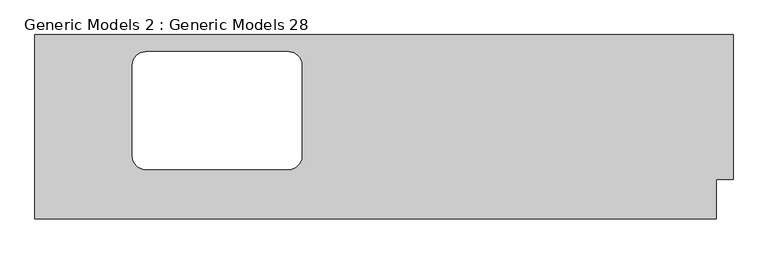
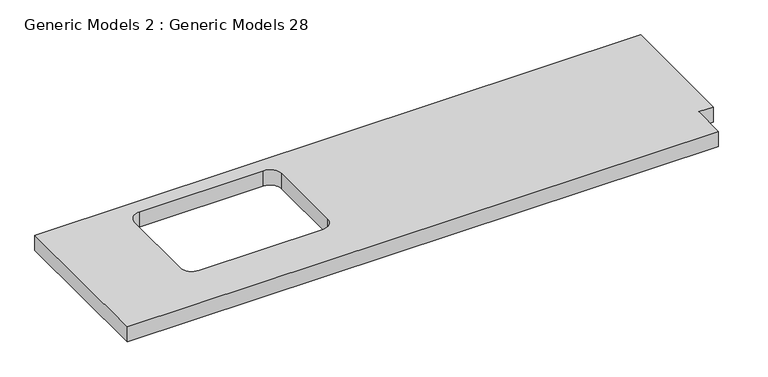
"""IFC4 building model written with IfcOpenShell, lengths in millimetres: proxy geometry, Generic Models 2 : Generic Models 28."""

from ifc_helpers import new_model, si_unit, point, frame, frame_2d, origin, place, context, project, spatial, polyline, circle_curve, trimmed, segment, composite_curve, outline, extrude, source, transform, mapped, element, save


def generic_models_2_generic_models_28_9f722f75(model_context):
    return source(origin(), model_context, "Body", "SweptSolid", [
        extrude(outline(polyline([(-21877.2739616, -7814.5871375), (-19227.2739616, -7814.5871375), (-19227.2739616, -8364.5871375), (-19291.4687178, -8364.5871375), (-19291.4687178, -8514.5871375), (-21877.2739616, -8514.5871375), (-21877.2739616, -7814.5871375)]), holes=[composite_curve([segment(polyline([(-20863.9048731, -8275.9470274), (-20863.9048731, -7929.9470274)]), True, "CONTINUOUS"), segment(trimmed(circle_curve(frame_2d((-20914.7048731, -7929.9470274)), 50.8), [point((-20863.9048731, -7929.9470274))], [point((-20914.7048731, -7879.1470274))], True, "CARTESIAN"), True, "CONTINUOUS"), segment(polyline([(-20914.7048731, -7879.1470274), (-21456.2048731, -7879.1470274)]), True, "CONTINUOUS"), segment(trimmed(circle_curve(frame_2d((-21456.2048731, -7929.9470274)), 50.8), [point((-21456.2048731, -7879.1470274))], [point((-21507.0048731, -7929.9470274))], True, "CARTESIAN"), True, "CONTINUOUS"), segment(polyline([(-21507.0048731, -7929.9470274), (-21507.0048731, -8275.9470274)]), True, "CONTINUOUS"), segment(trimmed(circle_curve(frame_2d((-21456.2048731, -8275.9470274)), 50.8), [point((-21507.0048731, -8275.9470274))], [point((-21456.2048731, -8326.7470274))], True, "CARTESIAN"), True, "CONTINUOUS"), segment(polyline([(-21456.2048731, -8326.7470274), (-20914.7048731, -8326.7470274)]), True, "CONTINUOUS"), segment(trimmed(circle_curve(frame_2d((-20914.7048731, -8275.9470274)), 50.8), [point((-20914.7048731, -8326.7470274))], [point((-20863.9048731, -8275.9470274))], True, "CARTESIAN"), True, "CONTINUOUS")], self_intersect=False)]), frame((0.0, 0.0, 830.0), z_axis=(0.0, 0.0, 1.0), x_axis=(1.0, 0.0, 0.0)), (0.0, 0.0, 1.0), 70.0),
    ])


if __name__ == "__main__":
    model = new_model("IFC4")
    model_context = context("Model", 3, world=origin())
    ifc_project = project(units=[si_unit("LENGTHUNIT", "METRE", prefix="MILLI")], contexts=[model_context])
    site = spatial("IfcSite", under=ifc_project)
    building = spatial("IfcBuilding", under=site)
    placement = place(None, origin())
    generic_models_2_generic_models_28_shape = generic_models_2_generic_models_28_9f722f75(model_context)
    element("IfcBuildingElementProxy", 1, Name="Generic Models 2 : Generic Models 28", ObjectType="Generic Models 2 : Generic Models 28", at=placement, inside=building, context=model_context, shape_type="MappedRepresentation", body=[
        mapped(generic_models_2_generic_models_28_shape, transform((0.0, 0.0, 0.0), x_axis=(1.0, 0.0, 0.0), y_axis=(0.0, 1.0, 0.0), z_axis=(0.0, 0.0, 1.0))),
    ])
    save(model, "model.ifc")
